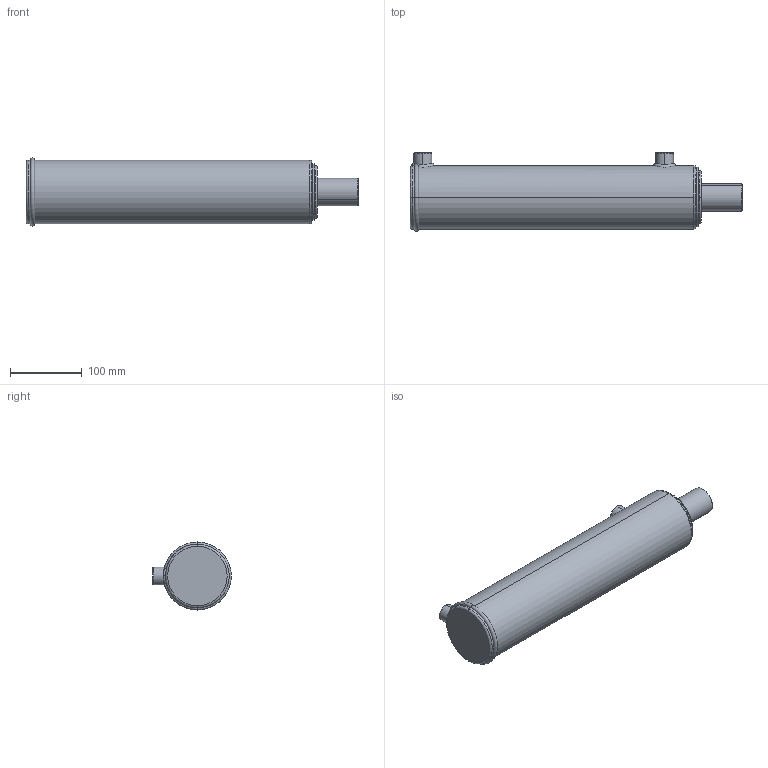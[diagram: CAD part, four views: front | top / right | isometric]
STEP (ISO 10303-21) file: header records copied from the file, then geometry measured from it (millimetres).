
FILE_DESCRIPTION (( 'STEP AP203' ), '1' );
FILE_NAME ('BL300150x305 (12).STEP', '2014-11-23T22:41:31', ( '' ), ( '' ), 'SwSTEP 2.0', 'SolidWorks 2014', '' );
FILE_SCHEMA (( 'CONFIG_CONTROL_DESIGN' ));
Length unit declared in the file: millimetre
Products named in the file (3): BL body 3_3x12; Spare_3x12; BL300150x305 (12)
Assembly tree (2 placements, depth 2):
  BL300150x305 (12)
    BL body 3_3x12
    Spare_3x12
Bounding box: 463 x 109.9 x 94.9 mm (x, y, z)
Volume: 2752498.7 mm3; surface area: 217857.7 mm2
Topology: 2 solids, 2 shells, 88 faces, 205 edges, 126 vertices
Faces by surface type: cylinder 32, plane 20, torus 17, bspline 11, cone 8
Entity records: 5992 total; most frequent: CARTESIAN_POINT 3745, DIRECTION 420, ORIENTED_EDGE 402, EDGE_CURVE 201, AXIS2_PLACEMENT_3D 181, VERTEX_POINT 126, EDGE_LOOP 101, CIRCLE 99
